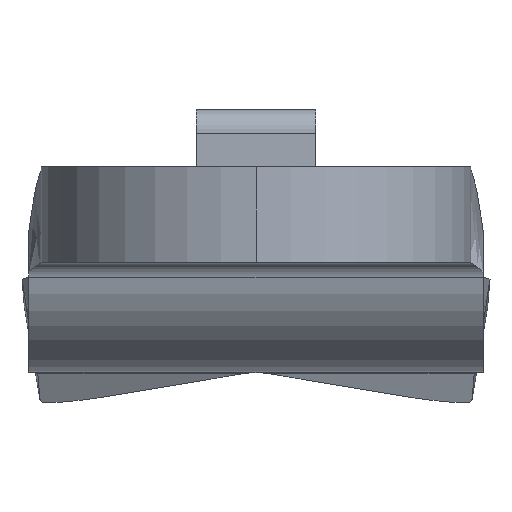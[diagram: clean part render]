
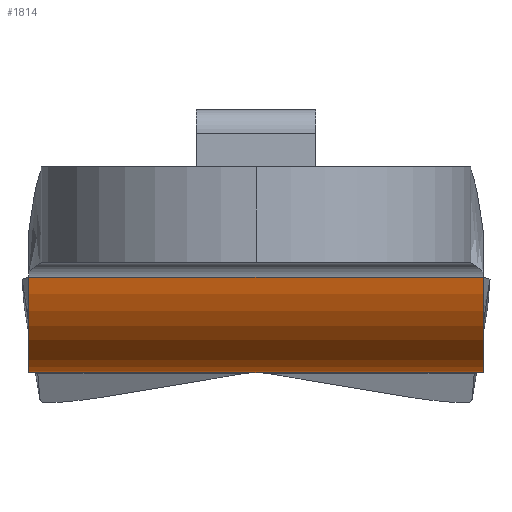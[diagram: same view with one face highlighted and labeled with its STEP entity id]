
A CAD part, left-side view. The second image highlights one B-rep face of the part: STEP entity #1814.
In plain terms, the highlighted cylindrical face has radius 4.737 mm (diameter 9.473 mm), a partial arc.
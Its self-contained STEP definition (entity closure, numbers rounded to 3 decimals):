
#69 = VERTEX_POINT ( 'NONE', #149 ) ;
#70 = VERTEX_POINT ( 'NONE', #150 ) ;
#71 = VERTEX_POINT ( 'NONE', #151 ) ;
#74 = VERTEX_POINT ( 'NONE', #154 ) ;
#149 = CARTESIAN_POINT ( 'NONE',  ( 25.09, -9.5, 0. ) ) ;
#150 = CARTESIAN_POINT ( 'NONE',  ( 25.09, 9.5, 0. ) ) ;
#151 = CARTESIAN_POINT ( 'NONE',  ( 20.412, 9.5, 3.996 ) ) ;
#154 = CARTESIAN_POINT ( 'NONE',  ( 20.412, -9.5, 3.996 ) ) ;
#275 = EDGE_LOOP ( 'NONE', ( #451, #452, #453, #454 ) ) ;
#451 = ORIENTED_EDGE ( 'NONE', *, *, #1606, .F. ) ;
#452 = ORIENTED_EDGE ( 'NONE', *, *, #1605, .F. ) ;
#453 = ORIENTED_EDGE ( 'NONE', *, *, #1602, .F. ) ;
#454 = ORIENTED_EDGE ( 'NONE', *, *, #1601, .T. ) ;
#690 = VECTOR ( 'NONE', #1232, 1000. ) ;
#693 = LINE ( 'NONE', #1208, #694 ) ;
#694 = VECTOR ( 'NONE', #1211, 1000. ) ;
#696 = LINE ( 'NONE', #1213, #690 ) ;
#697 = CIRCLE ( 'NONE', #1689, 4.737 ) ;
#703 = CIRCLE ( 'NONE', #1545, 4.737 ) ;
#882 = CYLINDRICAL_SURFACE ( 'NONE', #1751, 4.737 ) ;
#887 = FACE_OUTER_BOUND ( 'NONE', #275, .T. ) ;
#942 = DIRECTION ( 'NONE',  ( 0., 0., -1. ) ) ;
#943 = DIRECTION ( 'NONE',  ( 0., -1., 0. ) ) ;
#944 = CARTESIAN_POINT ( 'NONE',  ( 25.09, 19.861, 4.737 ) ) ;
#1205 = DIRECTION ( 'NONE',  ( 0., 1., 0. ) ) ;
#1208 = CARTESIAN_POINT ( 'NONE',  ( 25.09, -9.5, 0. ) ) ;
#1210 = CARTESIAN_POINT ( 'NONE',  ( 25.09, 9.5, 4.737 ) ) ;
#1211 = DIRECTION ( 'NONE',  ( 0., -1., 0. ) ) ;
#1213 = CARTESIAN_POINT ( 'NONE',  ( 20.412, -9.5, 3.996 ) ) ;
#1214 = DIRECTION ( 'NONE',  ( 0., 0., -1. ) ) ;
#1232 = DIRECTION ( 'NONE',  ( 0., -1., 0. ) ) ;
#1235 = CARTESIAN_POINT ( 'NONE',  ( 25.09, -9.5, 4.737 ) ) ;
#1237 = DIRECTION ( 'NONE',  ( 0., -1., 0. ) ) ;
#1239 = DIRECTION ( 'NONE',  ( 0., 0., -1. ) ) ;
#1545 = AXIS2_PLACEMENT_3D ( 'NONE', #1235, #1237, #1239 ) ;
#1601 = EDGE_CURVE ( 'NONE', #70, #69, #693, .T. ) ;
#1602 = EDGE_CURVE ( 'NONE', #70, #71, #697, .T. ) ;
#1605 = EDGE_CURVE ( 'NONE', #71, #74, #696, .T. ) ;
#1606 = EDGE_CURVE ( 'NONE', #74, #69, #703, .T. ) ;
#1689 = AXIS2_PLACEMENT_3D ( 'NONE', #1210, #1205, #1214 ) ;
#1751 = AXIS2_PLACEMENT_3D ( 'NONE', #944, #943, #942 ) ;
#1814 = ADVANCED_FACE ( 'NONE', ( #887 ), #882, .T. ) ;
